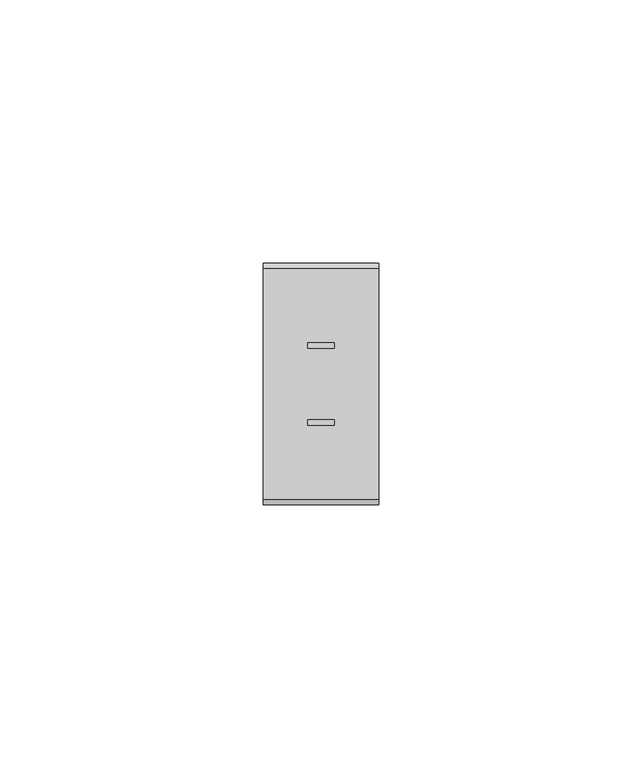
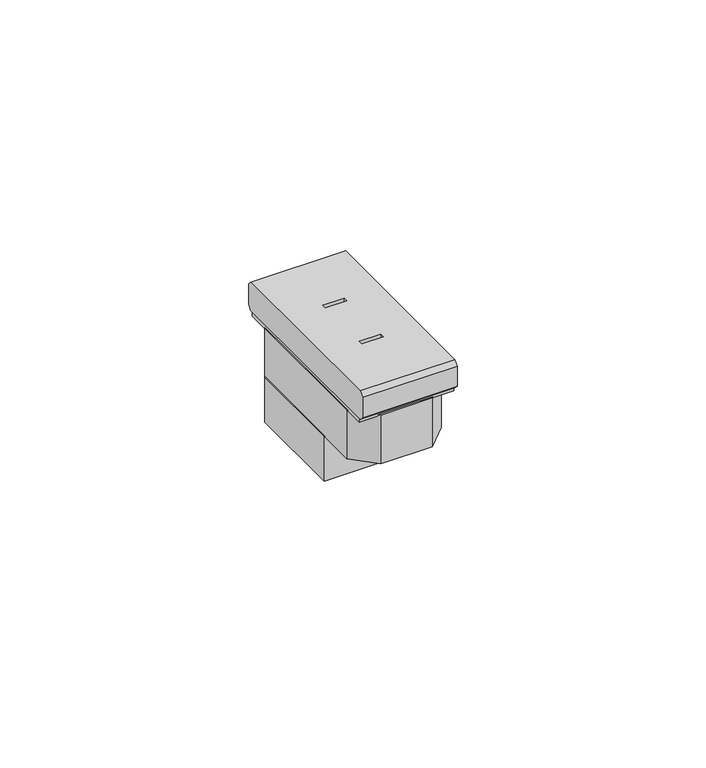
"""IFC4 building model written with IfcOpenShell, lengths in millimetres: proxy geometry, L4127 LI Presa FM 2P UL : L4127 LI Presa FM 2P UL."""

from ifc_helpers import new_model, si_unit, frame, origin, origin_with_axes, place, context, project, spatial, polyline, outline, extrude, faceted_brep, source, transform, mapped, element, save


def electrical_fixtures_917ed458(model_context):
    return source(origin(), model_context, "Body", "SolidModel", [
        faceted_brep([(11.0, -22.0, 1.0), (11.0, 22.0, 1.0), (11.0, 22.9899495, 1.9899495), (11.0, 22.9899495, 6.9899495), (11.0, 22.0, 7.979899), (11.0, -22.0, 7.979899), (11.0, -22.9899495, 6.9899495), (11.0, -22.9899495, 1.9899495), (-11.0, -22.0, 1.0), (-11.0, -22.9899495, 1.9899495), (-11.0, -22.9899495, 6.9899495), (-11.0, -22.0, 7.979899), (-11.0, 22.0, 7.979899), (-11.0, 22.9899495, 6.9899495), (-11.0, 22.9899495, 1.9899495), (-11.0, 22.0, 1.0), (2.5, 6.8, 1.0), (2.5, 7.8, 1.0), (-2.5, 7.8, 1.0), (-2.5, 6.8, 1.0), (2.5, -6.8, 1.0), (-2.5, -6.8, 1.0), (-2.5, -7.8, 1.0), (2.5, -7.8, 1.0), (2.5, 7.8, 7.979899), (2.5, 6.8, 7.979899), (-2.5, 6.8, 7.979899), (-2.5, 7.8, 7.979899), (-2.5, -6.8, 7.979899), (2.5, -6.8, 7.979899), (2.5, -7.8, 7.979899), (-2.5, -7.8, 7.979899)], [[[0, 1, 2, 3, 4, 5, 6, 7]], [[8, 9, 10, 11, 12, 13, 14, 15]], [[1, 0, 8, 15], [16, 17, 18, 19], [20, 21, 22, 23]], [[6, 5, 11, 10]], [[7, 6, 10, 9]], [[0, 7, 9, 8]], [[2, 1, 15, 14]], [[3, 2, 14, 13]], [[4, 3, 13, 12]], [[5, 4, 12, 11], [24, 25, 26, 27], [28, 29, 30, 31]], [[24, 17, 16, 25]], [[17, 24, 27, 18]], [[18, 27, 26, 19]], [[25, 16, 19, 26]], [[28, 21, 20, 29]], [[21, 28, 31, 22]], [[22, 31, 30, 23]], [[29, 20, 23, 30]]]),
        extrude(outline(polyline([(-11.0, -7.5), (-11.0, 16.5), (-9.0, 18.5), (9.0, 18.5), (11.0, 16.5), (11.0, -7.5), (-11.0, -7.5)])), frame((0.0, 0.0, -23.0), z_axis=(0.0, 0.0, 1.0), x_axis=(1.0, 0.0, 0.0)), (0.0, 0.0, 1.0), 11.0),
        extrude(outline(polyline([(11.0, -16.5), (6.0, -21.5), (-6.0, -21.5), (-11.0, -16.5), (-11.0, 16.5), (-6.0, 21.5), (6.0, 21.5), (11.0, 16.5), (11.0, -16.5)])), frame((0.0, 0.0, -12.0), z_axis=(0.0, 0.0, 1.0), x_axis=(1.0, 0.0, 0.0)), (0.0, 0.0, 1.0), 12.0),
        extrude(outline(polyline([(11.0, -21.5), (-11.0, -21.5), (-11.0, 21.5), (11.0, 21.5), (11.0, -21.5)])), origin_with_axes(), (0.0, 0.0, 1.0), 1.0),
    ])


if __name__ == "__main__":
    model = new_model("IFC4")
    model_context = context("Model", 3, world=origin())
    ifc_project = project(units=[si_unit("LENGTHUNIT", "METRE", prefix="MILLI")], contexts=[model_context])
    site = spatial("IfcSite", under=ifc_project)
    building = spatial("IfcBuilding", under=site)
    placement = place(None, origin())
    electrical_fixtures_shape = electrical_fixtures_917ed458(model_context)
    element("IfcBuildingElementProxy", 1, Name="L4127 LI Presa FM 2P UL : L4127 LI Presa FM 2P UL", ObjectType="L4127 LI Presa FM 2P UL : L4127 LI Presa FM 2P UL", at=placement, inside=building, context=model_context, shape_type="MappedRepresentation", body=[
        mapped(electrical_fixtures_shape, transform((0.0, 0.0, 0.0), x_axis=(1.0, 0.0, 0.0), y_axis=(0.0, 1.0, 0.0), z_axis=(0.0, 0.0, 1.0))),
    ])
    save(model, "model.ifc")
